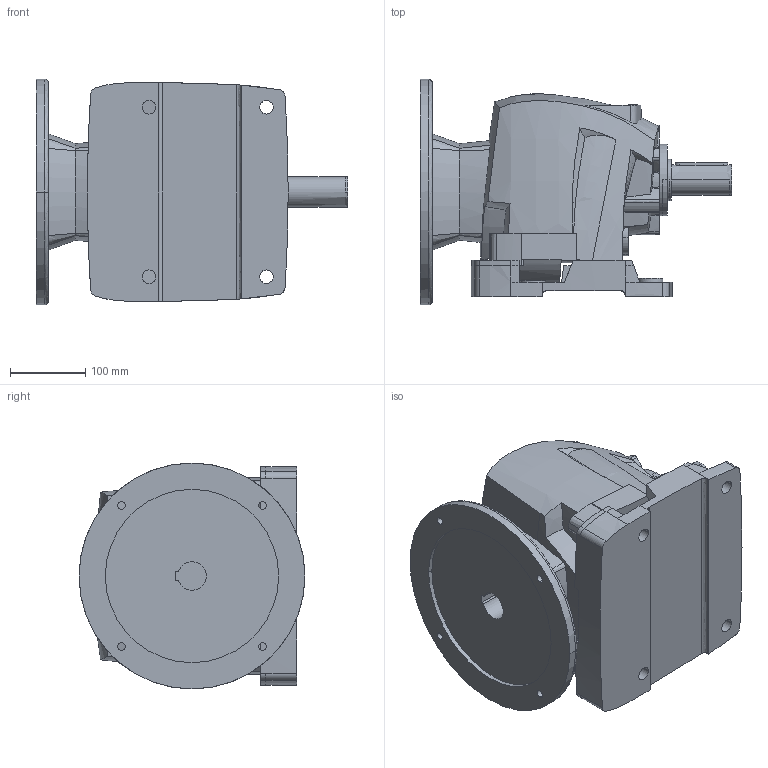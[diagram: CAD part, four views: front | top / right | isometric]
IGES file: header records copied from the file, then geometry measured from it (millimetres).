
Start section:  PTC IGES file: r40_bf_pam132.igs
Global section: file name: r40_bf_pam132.igs; native system: Pro/ENGINEER by Parametric Technology Corporation; preprocessor: 2008230; author: Luca; organization: Unknown; date: 20131128.115916; units: millimetre
Bounding box: 413.5 x 300 x 300 mm (x, y, z)
Volume: 14002305 mm3; surface area: 683926.1 mm2
Topology: 1 solids, 1 shells, 509 faces, 1462 edges, 980 vertices
Faces by surface type: bspline 238, revolution 227, extrusion 44
